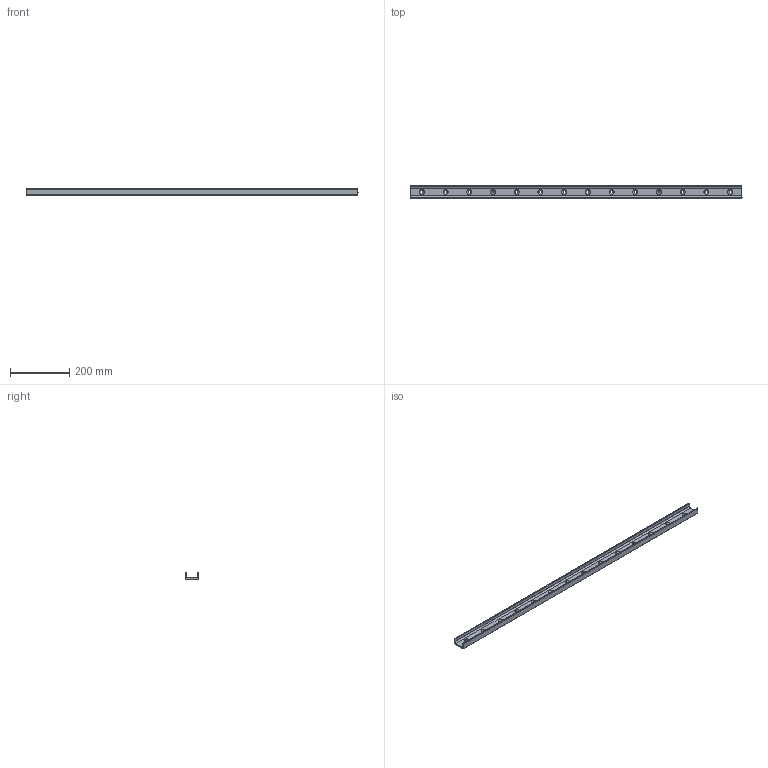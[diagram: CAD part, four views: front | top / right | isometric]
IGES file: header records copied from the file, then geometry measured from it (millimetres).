
Start section: SolidWorks IGES file using analytic representation for surfaces
Global section: file name: C:\Users\IanO\Desktop\43\L1943.ULV43_v2_20180121_IGES\L1943.ULV43-1120.igs; native system: SolidWorks 2017; preprocessor: SolidWorks 2017; author: IanO; date: 190121.090018; units: millimetre
Bounding box: 1120 x 43 x 21 mm (x, y, z)
Surface area: 174180 mm2 (no closed solid volume)
Topology: 0 solids, 0 shells, 82 faces, 1414 edges, 1414 vertices
Faces by surface type: revolution 69, bspline 13
